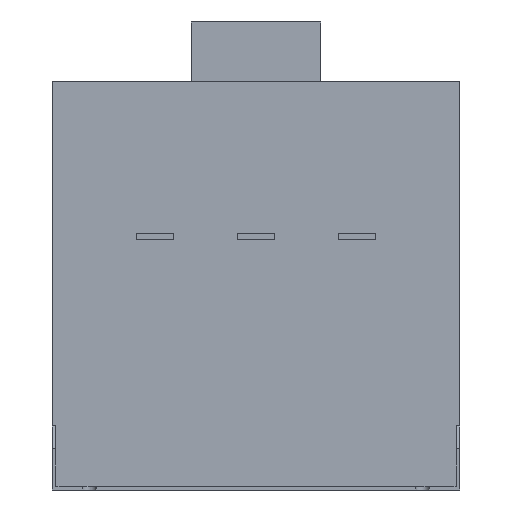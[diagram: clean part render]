
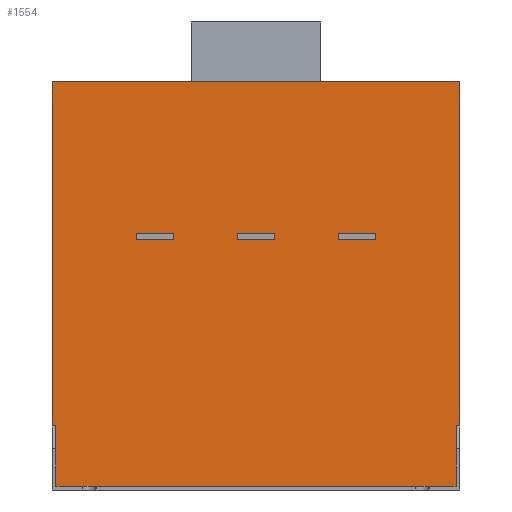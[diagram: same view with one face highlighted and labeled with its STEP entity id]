
A CAD part, front view. The second image highlights one B-rep face of the part: STEP entity #1554.
In plain terms, the highlighted planar face has unit normal (0, -1, 0).
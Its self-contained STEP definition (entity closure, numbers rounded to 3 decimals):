
#47=FACE_BOUND('',#301,.T.);
#48=FACE_BOUND('',#302,.T.);
#49=FACE_BOUND('',#303,.T.);
#110=PLANE('',#1689);
#189=FACE_OUTER_BOUND('',#300,.T.);
#300=EDGE_LOOP('',(#1438,#1439,#1440,#1441,#1442,#1443,#1444,#1445));
#301=EDGE_LOOP('',(#1446,#1447,#1448,#1449));
#302=EDGE_LOOP('',(#1450,#1451,#1452,#1453));
#303=EDGE_LOOP('',(#1454,#1455,#1456,#1457));
#316=LINE('',#2172,#490);
#320=LINE('',#2180,#494);
#323=LINE('',#2186,#497);
#326=LINE('',#2191,#500);
#328=LINE('',#2197,#502);
#332=LINE('',#2205,#506);
#335=LINE('',#2211,#509);
#338=LINE('',#2216,#512);
#340=LINE('',#2222,#514);
#344=LINE('',#2230,#518);
#347=LINE('',#2236,#521);
#350=LINE('',#2241,#524);
#430=LINE('',#2430,#604);
#434=LINE('',#2437,#608);
#443=LINE('',#2458,#617);
#458=LINE('',#2485,#632);
#464=LINE('',#2496,#638);
#466=LINE('',#2500,#640);
#468=LINE('',#2504,#642);
#469=LINE('',#2506,#643);
#490=VECTOR('',#1778,10.);
#494=VECTOR('',#1784,10.);
#497=VECTOR('',#1789,10.);
#500=VECTOR('',#1794,10.);
#502=VECTOR('',#1800,10.);
#506=VECTOR('',#1806,10.);
#509=VECTOR('',#1811,10.);
#512=VECTOR('',#1816,10.);
#514=VECTOR('',#1822,10.);
#518=VECTOR('',#1828,10.);
#521=VECTOR('',#1833,10.);
#524=VECTOR('',#1838,10.);
#604=VECTOR('',#2008,10.);
#608=VECTOR('',#2014,10.);
#617=VECTOR('',#2029,10.);
#632=VECTOR('',#2054,10.);
#638=VECTOR('',#2062,10.);
#640=VECTOR('',#2066,10.);
#642=VECTOR('',#2070,10.);
#643=VECTOR('',#2073,10.);
#712=VERTEX_POINT('',#2170);
#713=VERTEX_POINT('',#2171);
#716=VERTEX_POINT('',#2179);
#718=VERTEX_POINT('',#2185);
#720=VERTEX_POINT('',#2195);
#721=VERTEX_POINT('',#2196);
#724=VERTEX_POINT('',#2204);
#726=VERTEX_POINT('',#2210);
#728=VERTEX_POINT('',#2220);
#729=VERTEX_POINT('',#2221);
#732=VERTEX_POINT('',#2229);
#734=VERTEX_POINT('',#2235);
#798=VERTEX_POINT('',#2427);
#799=VERTEX_POINT('',#2429);
#800=VERTEX_POINT('',#2433);
#801=VERTEX_POINT('',#2435);
#810=VERTEX_POINT('',#2457);
#817=VERTEX_POINT('',#2484);
#822=VERTEX_POINT('',#2498);
#823=VERTEX_POINT('',#2502);
#864=EDGE_CURVE('',#712,#713,#316,.T.);
#868=EDGE_CURVE('',#713,#716,#320,.T.);
#871=EDGE_CURVE('',#716,#718,#323,.T.);
#874=EDGE_CURVE('',#718,#712,#326,.T.);
#876=EDGE_CURVE('',#720,#721,#328,.T.);
#880=EDGE_CURVE('',#721,#724,#332,.T.);
#883=EDGE_CURVE('',#724,#726,#335,.T.);
#886=EDGE_CURVE('',#726,#720,#338,.T.);
#888=EDGE_CURVE('',#728,#729,#340,.T.);
#892=EDGE_CURVE('',#729,#732,#344,.T.);
#895=EDGE_CURVE('',#732,#734,#347,.T.);
#898=EDGE_CURVE('',#734,#728,#350,.T.);
#990=EDGE_CURVE('',#798,#799,#430,.T.);
#994=EDGE_CURVE('',#801,#800,#434,.T.);
#1003=EDGE_CURVE('',#800,#810,#443,.T.);
#1018=EDGE_CURVE('',#810,#817,#458,.T.);
#1024=EDGE_CURVE('',#817,#798,#464,.T.);
#1026=EDGE_CURVE('',#801,#822,#466,.T.);
#1028=EDGE_CURVE('',#822,#823,#468,.T.);
#1029=EDGE_CURVE('',#823,#799,#469,.T.);
#1438=ORIENTED_EDGE('',*,*,#1026,.T.);
#1439=ORIENTED_EDGE('',*,*,#1028,.T.);
#1440=ORIENTED_EDGE('',*,*,#1029,.T.);
#1441=ORIENTED_EDGE('',*,*,#990,.F.);
#1442=ORIENTED_EDGE('',*,*,#1024,.F.);
#1443=ORIENTED_EDGE('',*,*,#1018,.F.);
#1444=ORIENTED_EDGE('',*,*,#1003,.F.);
#1445=ORIENTED_EDGE('',*,*,#994,.F.);
#1446=ORIENTED_EDGE('',*,*,#864,.T.);
#1447=ORIENTED_EDGE('',*,*,#868,.T.);
#1448=ORIENTED_EDGE('',*,*,#871,.T.);
#1449=ORIENTED_EDGE('',*,*,#874,.T.);
#1450=ORIENTED_EDGE('',*,*,#876,.T.);
#1451=ORIENTED_EDGE('',*,*,#880,.T.);
#1452=ORIENTED_EDGE('',*,*,#883,.T.);
#1453=ORIENTED_EDGE('',*,*,#886,.T.);
#1454=ORIENTED_EDGE('',*,*,#888,.T.);
#1455=ORIENTED_EDGE('',*,*,#892,.T.);
#1456=ORIENTED_EDGE('',*,*,#895,.T.);
#1457=ORIENTED_EDGE('',*,*,#898,.T.);
#1554=ADVANCED_FACE('',(#189,#47,#48,#49),#110,.T.);
#1689=AXIS2_PLACEMENT_3D('',#2525,#2094,#2095);
#1778=DIRECTION('',(0.,0.,1.));
#1784=DIRECTION('',(1.,0.,0.));
#1789=DIRECTION('',(0.,0.,-1.));
#1794=DIRECTION('',(-1.,0.,0.));
#1800=DIRECTION('',(0.,0.,1.));
#1806=DIRECTION('',(1.,0.,0.));
#1811=DIRECTION('',(0.,0.,-1.));
#1816=DIRECTION('',(-1.,0.,0.));
#1822=DIRECTION('',(0.,0.,1.));
#1828=DIRECTION('',(1.,0.,0.));
#1833=DIRECTION('',(0.,0.,-1.));
#1838=DIRECTION('',(-1.,0.,0.));
#2008=DIRECTION('',(-1.,0.,0.));
#2014=DIRECTION('',(-1.,0.,0.));
#2029=DIRECTION('',(0.,0.,1.));
#2054=DIRECTION('',(1.,0.,0.));
#2062=DIRECTION('',(0.,0.,-1.));
#2066=DIRECTION('',(0.,0.,-1.));
#2070=DIRECTION('',(1.,0.,0.));
#2073=DIRECTION('',(0.,0.,1.));
#2094=DIRECTION('center_axis',(0.,-1.,0.));
#2095=DIRECTION('ref_axis',(1.,0.,0.));
#2170=CARTESIAN_POINT('',(-97.,-410.5,203.));
#2171=CARTESIAN_POINT('',(-97.,-410.5,208.));
#2172=CARTESIAN_POINT('',(-97.,-410.5,104.));
#2179=CARTESIAN_POINT('',(-67.,-410.5,208.));
#2180=CARTESIAN_POINT('',(-116.,-410.5,208.));
#2185=CARTESIAN_POINT('',(-67.,-410.5,203.));
#2186=CARTESIAN_POINT('',(-67.,-410.5,101.5));
#2191=CARTESIAN_POINT('',(-131.,-410.5,203.));
#2195=CARTESIAN_POINT('',(-15.,-410.5,203.));
#2196=CARTESIAN_POINT('',(-15.,-410.5,208.));
#2197=CARTESIAN_POINT('',(-15.,-410.5,104.));
#2204=CARTESIAN_POINT('',(15.,-410.5,208.));
#2205=CARTESIAN_POINT('',(-75.,-410.5,208.));
#2210=CARTESIAN_POINT('',(15.,-410.5,203.));
#2211=CARTESIAN_POINT('',(15.,-410.5,101.5));
#2216=CARTESIAN_POINT('',(-90.,-410.5,203.));
#2220=CARTESIAN_POINT('',(67.,-410.5,203.));
#2221=CARTESIAN_POINT('',(67.,-410.5,208.));
#2222=CARTESIAN_POINT('',(67.,-410.5,104.));
#2229=CARTESIAN_POINT('',(97.,-410.5,208.));
#2230=CARTESIAN_POINT('',(-34.,-410.5,208.));
#2235=CARTESIAN_POINT('',(97.,-410.5,203.));
#2236=CARTESIAN_POINT('',(97.,-410.5,101.5));
#2241=CARTESIAN_POINT('',(-49.,-410.5,203.));
#2427=CARTESIAN_POINT('',(165.,-410.5,51.851));
#2429=CARTESIAN_POINT('',(162.,-410.5,51.851));
#2430=CARTESIAN_POINT('',(165.,-410.5,51.851));
#2433=CARTESIAN_POINT('',(-165.,-410.5,51.851));
#2435=CARTESIAN_POINT('',(-162.,-410.5,51.851));
#2437=CARTESIAN_POINT('',(165.,-410.5,51.851));
#2457=CARTESIAN_POINT('',(-165.,-410.5,331.));
#2458=CARTESIAN_POINT('',(-165.,-410.5,185.911));
#2484=CARTESIAN_POINT('',(165.,-410.5,331.));
#2485=CARTESIAN_POINT('',(82.5,-410.5,331.));
#2496=CARTESIAN_POINT('',(165.,-410.5,185.911));
#2498=CARTESIAN_POINT('',(-162.,-410.5,3.));
#2500=CARTESIAN_POINT('',(-162.,-410.5,1.5));
#2502=CARTESIAN_POINT('',(162.,-410.5,3.));
#2504=CARTESIAN_POINT('',(-1.5,-410.5,3.));
#2506=CARTESIAN_POINT('',(162.,-410.5,165.5));
#2525=CARTESIAN_POINT('Origin',(-165.,-410.5,0.));
